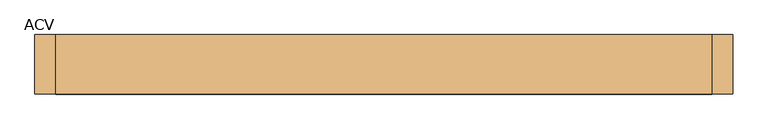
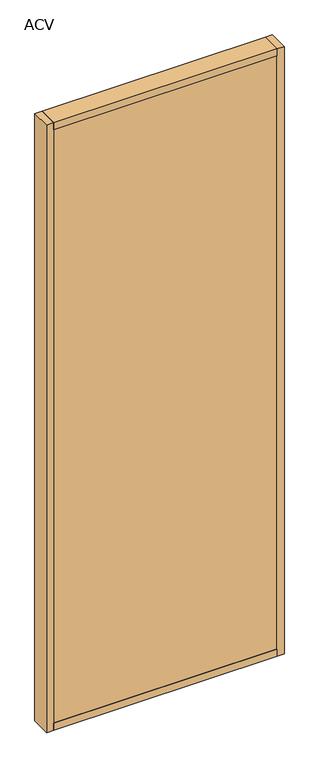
"""IFC4 building model written with IfcOpenShell, lengths in millimetres: door geometry, Mobiliário_Mobiliário de Escritório_Painel Cego - ACV (Completo)_Marelli : ACV."""

from ifc_helpers import new_model, si_unit, frame, origin, origin_with_axes, place, context, project, spatial, polyline, outline, extrude, source, transform, mapped, element, save


def acv_e3f03def(model_context):
    return source(origin(), model_context, "Body", "SweptSolid", [
        extrude(outline(polyline([(470.0, 42.5), (470.0, -42.5), (-470.0, -42.5), (-470.0, 42.5), (470.0, 42.5)])), origin_with_axes(), (0.0, 0.0, 1.0), 30.0),
        extrude(outline(polyline([(470.0, 42.5), (470.0, -42.5), (-470.0, -42.5), (-470.0, 42.5), (470.0, 42.5)])), frame((0.0, 0.0, 2670.0), z_axis=(0.0, 0.0, 1.0), x_axis=(1.0, 0.0, 0.0)), (0.0, 0.0, 1.0), 30.0),
        extrude(outline(polyline([(-500.0, -42.5), (-500.0, 42.5), (-470.0, 42.5), (-470.0, -42.5), (-500.0, -42.5)])), origin_with_axes(), (0.0, 0.0, 1.0), 2700.0),
        extrude(outline(polyline([(500.0, -42.5), (470.0, -42.5), (470.0, 42.5), (500.0, 42.5), (500.0, -42.5)])), origin_with_axes(), (0.0, 0.0, 1.0), 2700.0),
        extrude(outline(polyline([(470.0, 39.5), (470.0, 21.5), (-470.0, 21.5), (-470.0, 39.5), (470.0, 39.5)])), frame((0.0, 0.0, 30.0), z_axis=(0.0, 0.0, 1.0), x_axis=(1.0, 0.0, 0.0)), (0.0, 0.0, 1.0), 2640.0),
        extrude(outline(polyline([(470.0, -39.5), (-470.0, -39.5), (-470.0, -21.5), (470.0, -21.5), (470.0, -39.5)])), frame((0.0, 0.0, 30.0), z_axis=(0.0, 0.0, 1.0), x_axis=(1.0, 0.0, 0.0)), (0.0, 0.0, 1.0), 2640.0),
    ])


if __name__ == "__main__":
    model = new_model("IFC4")
    model_context = context("Model", 3, world=origin())
    ifc_project = project(units=[si_unit("LENGTHUNIT", "METRE", prefix="MILLI")], contexts=[model_context])
    site = spatial("IfcSite", under=ifc_project)
    building = spatial("IfcBuilding", under=site)
    placement = place(None, origin())
    acv_shape = acv_e3f03def(model_context)
    element("IfcDoor", 1, ObjectType="Mobiliário_Mobiliário de Escritório_Painel Cego - ACV (Completo)_Marelli : ACV", at=placement, inside=building, context=model_context, shape_type="MappedRepresentation", body=[
        mapped(acv_shape, transform((0.0, 0.0, 0.0), x_axis=(1.0, 0.0, 0.0), y_axis=(0.0, 1.0, 0.0), z_axis=(0.0, 0.0, 1.0))),
    ])
    save(model, "model.ifc")
